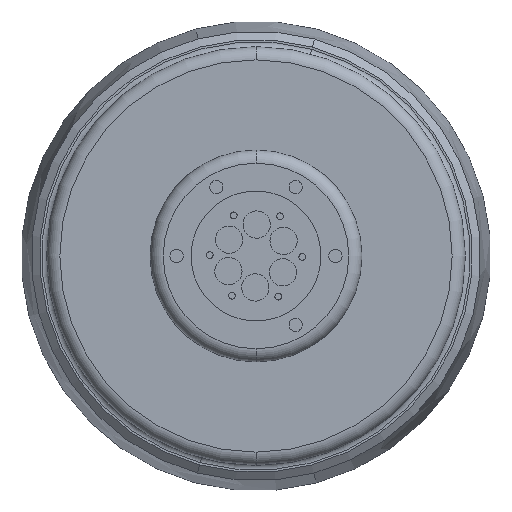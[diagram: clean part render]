
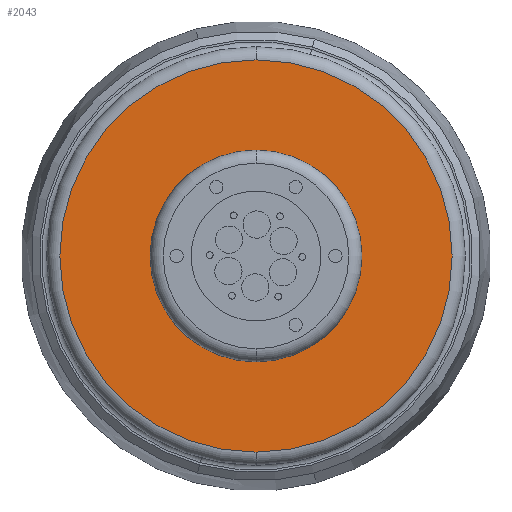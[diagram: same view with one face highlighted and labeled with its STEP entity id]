
A CAD part, front view. The second image highlights one B-rep face of the part: STEP entity #2043.
In plain terms, the highlighted planar face has unit normal (0, -1, 0).
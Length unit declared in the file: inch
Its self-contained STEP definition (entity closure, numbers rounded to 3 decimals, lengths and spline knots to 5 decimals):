
#85 = CARTESIAN_POINT ( 'NONE',  ( 0., 0.35, -3.7025 ) ) ;
#95 = CARTESIAN_POINT ( 'NONE',  ( 0., 0.35, 3.7025 ) ) ;
#226 = CARTESIAN_POINT ( 'NONE',  ( 0., 0.35, 2. ) ) ;
#233 = CARTESIAN_POINT ( 'NONE',  ( 0., 0.35, -2. ) ) ;
#315 = DIRECTION ( 'NONE',  ( 0., 0., 1. ) ) ;
#437 = PLANE ( 'NONE',  #2831 ) ;
#438 = CARTESIAN_POINT ( 'NONE',  ( -5., 0.35, 0. ) ) ;
#447 = DIRECTION ( 'NONE',  ( 0., 1., 0. ) ) ;
#760 = CARTESIAN_POINT ( 'NONE',  ( 0., 0.35, 0. ) ) ;
#794 = DIRECTION ( 'NONE',  ( 0., 1., 0. ) ) ;
#795 = DIRECTION ( 'NONE',  ( 0., 0., 1. ) ) ;
#918 = DIRECTION ( 'NONE',  ( 0., 0., 1. ) ) ;
#1188 = DIRECTION ( 'NONE',  ( 0., -1., 0. ) ) ;
#1192 = CARTESIAN_POINT ( 'NONE',  ( 0., 0.35, 0. ) ) ;
#1216 = DIRECTION ( 'NONE',  ( 0., 0., 1. ) ) ;
#1234 = CARTESIAN_POINT ( 'NONE',  ( 0., 0.35, 0. ) ) ;
#1244 = DIRECTION ( 'NONE',  ( 0., 1., 0. ) ) ;
#1554 = VERTEX_POINT ( 'NONE', #226 ) ;
#1618 = VERTEX_POINT ( 'NONE', #233 ) ;
#1711 = VERTEX_POINT ( 'NONE', #85 ) ;
#1715 = VERTEX_POINT ( 'NONE', #95 ) ;
#1749 = FACE_BOUND ( 'NONE', #4060, .T. ) ;
#1755 = FACE_OUTER_BOUND ( 'NONE', #4108, .T. ) ;
#2043 = ADVANCED_FACE ( 'NONE', ( #1755, #1749 ), #437, .F. ) ;
#2232 = EDGE_CURVE ( 'NONE', #1554, #1618, #3207, .T. ) ;
#2246 = EDGE_CURVE ( 'NONE', #1715, #1711, #3188, .T. ) ;
#2248 = EDGE_CURVE ( 'NONE', #1618, #1554, #3185, .T. ) ;
#2340 = EDGE_CURVE ( 'NONE', #1711, #1715, #3067, .T. ) ;
#2421 = AXIS2_PLACEMENT_3D ( 'NONE', #760, #794, #795 ) ;
#2422 = AXIS2_PLACEMENT_3D ( 'NONE', #3585, #3606, #3608 ) ;
#2432 = AXIS2_PLACEMENT_3D ( 'NONE', #1234, #1244, #918 ) ;
#2438 = AXIS2_PLACEMENT_3D ( 'NONE', #1192, #1188, #1216 ) ;
#2831 = AXIS2_PLACEMENT_3D ( 'NONE', #438, #447, #315 ) ;
#3067 = CIRCLE ( 'NONE', #2422, 3.7025 ) ;
#3185 = CIRCLE ( 'NONE', #2432, 2. ) ;
#3188 = CIRCLE ( 'NONE', #2438, 3.7025 ) ;
#3207 = CIRCLE ( 'NONE', #2421, 2. ) ;
#3585 = CARTESIAN_POINT ( 'NONE',  ( 0., 0.35, 0. ) ) ;
#3606 = DIRECTION ( 'NONE',  ( 0., -1., 0. ) ) ;
#3608 = DIRECTION ( 'NONE',  ( 0., 0., 1. ) ) ;
#4060 = EDGE_LOOP ( 'NONE', ( #4323, #4250 ) ) ;
#4108 = EDGE_LOOP ( 'NONE', ( #4442, #4248 ) ) ;
#4248 = ORIENTED_EDGE ( 'NONE', *, *, #2340, .T. ) ;
#4250 = ORIENTED_EDGE ( 'NONE', *, *, #2248, .T. ) ;
#4323 = ORIENTED_EDGE ( 'NONE', *, *, #2232, .T. ) ;
#4442 = ORIENTED_EDGE ( 'NONE', *, *, #2246, .T. ) ;
